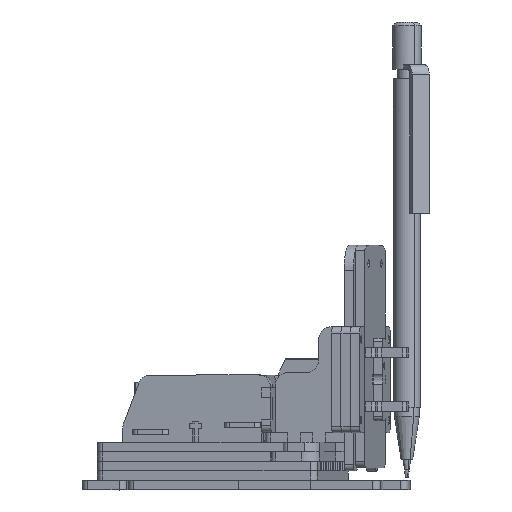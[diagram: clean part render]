
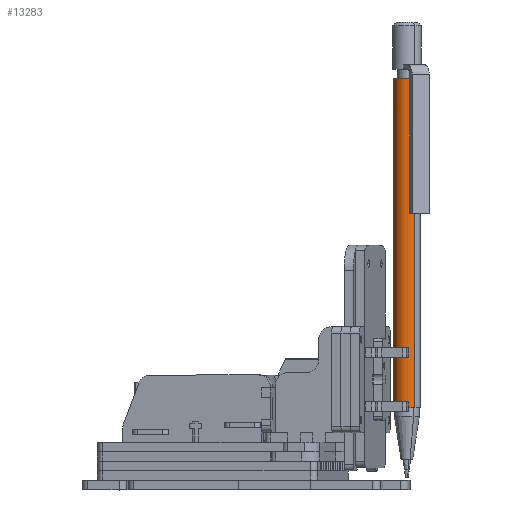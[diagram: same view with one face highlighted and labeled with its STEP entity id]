
A CAD part, top view. The second image highlights one B-rep face of the part: STEP entity #13283.
In plain terms, the highlighted cylindrical face has radius 4.25 mm (diameter 8.5 mm), a partial arc.
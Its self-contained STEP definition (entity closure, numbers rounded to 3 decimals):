
#316 = CIRCLE ( 'NONE', #38808, 4.25 ) ;
#317 = LINE ( 'NONE', #70003, #321 ) ;
#319 = LINE ( 'NONE', #70007, #324 ) ;
#320 = CIRCLE ( 'NONE', #38810, 4.25 ) ;
#321 = VECTOR ( 'NONE', #70001, 1000. ) ;
#324 = VECTOR ( 'NONE', #70002, 1000. ) ;
#1959 = CARTESIAN_POINT ( 'NONE',  ( 4.25, 126., 0. ) ) ;
#1962 = CARTESIAN_POINT ( 'NONE',  ( -4.25, 126., 0. ) ) ;
#1964 = CARTESIAN_POINT ( 'NONE',  ( 4.25, 22., 0. ) ) ;
#1965 = CARTESIAN_POINT ( 'NONE',  ( -4.25, 22., 0. ) ) ;
#13283 = ADVANCED_FACE ( 'NONE', ( #40148 ), #40155, .T. ) ;
#13757 = EDGE_LOOP ( 'NONE', ( #17886, #17887, #17888, #17889 ) ) ;
#17886 = ORIENTED_EDGE ( 'NONE', *, *, #55967, .T. ) ;
#17887 = ORIENTED_EDGE ( 'NONE', *, *, #55968, .T. ) ;
#17888 = ORIENTED_EDGE ( 'NONE', *, *, #55969, .F. ) ;
#17889 = ORIENTED_EDGE ( 'NONE', *, *, #55970, .F. ) ;
#36709 = DIRECTION ( 'NONE',  ( 1., 0., 0. ) ) ;
#36711 = DIRECTION ( 'NONE',  ( 0., -1., 0. ) ) ;
#36717 = CARTESIAN_POINT ( 'NONE',  ( 0., 0., 0. ) ) ;
#37616 = AXIS2_PLACEMENT_3D ( 'NONE', #36717, #36711, #36709 ) ;
#38808 = AXIS2_PLACEMENT_3D ( 'NONE', #70004, #70005, #70006 ) ;
#38810 = AXIS2_PLACEMENT_3D ( 'NONE', #70008, #70009, #70010 ) ;
#40148 = FACE_OUTER_BOUND ( 'NONE', #13757, .T. ) ;
#40155 = CYLINDRICAL_SURFACE ( 'NONE', #37616, 4.25 ) ;
#55967 = EDGE_CURVE ( 'NONE', #60199, #60202, #316, .T. ) ;
#55968 = EDGE_CURVE ( 'NONE', #60202, #60205, #317, .T. ) ;
#55969 = EDGE_CURVE ( 'NONE', #60204, #60205, #320, .T. ) ;
#55970 = EDGE_CURVE ( 'NONE', #60199, #60204, #319, .T. ) ;
#60199 = VERTEX_POINT ( 'NONE', #1959 ) ;
#60202 = VERTEX_POINT ( 'NONE', #1962 ) ;
#60204 = VERTEX_POINT ( 'NONE', #1964 ) ;
#60205 = VERTEX_POINT ( 'NONE', #1965 ) ;
#70001 = DIRECTION ( 'NONE',  ( 0., -1., 0. ) ) ;
#70002 = DIRECTION ( 'NONE',  ( 0., -1., 0. ) ) ;
#70003 = CARTESIAN_POINT ( 'NONE',  ( -4.25, 0., 0. ) ) ;
#70004 = CARTESIAN_POINT ( 'NONE',  ( 0., 126., 0. ) ) ;
#70005 = DIRECTION ( 'NONE',  ( 0., -1., 0. ) ) ;
#70006 = DIRECTION ( 'NONE',  ( 1., 0., 0. ) ) ;
#70007 = CARTESIAN_POINT ( 'NONE',  ( 4.25, 0., 0. ) ) ;
#70008 = CARTESIAN_POINT ( 'NONE',  ( 0., 22., 0. ) ) ;
#70009 = DIRECTION ( 'NONE',  ( 0., -1., 0. ) ) ;
#70010 = DIRECTION ( 'NONE',  ( 1., 0., 0. ) ) ;
